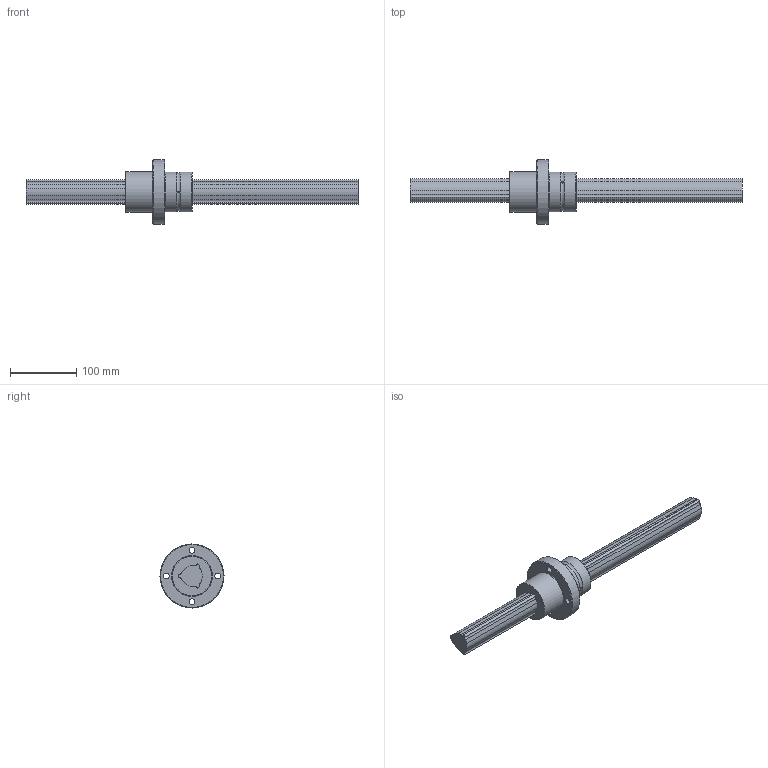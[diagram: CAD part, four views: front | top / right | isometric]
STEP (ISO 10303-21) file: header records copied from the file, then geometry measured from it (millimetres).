
FILE_DESCRIPTION(/* description */ ('STEP AP214'),/* implementation_level */ '2;1');
FILE_NAME(/* name */ 'LBR40+500L(1001500)',/* time_stamp */ '2024-09-04T13:08:09+02:00',/* author */ ('License CC BY-ND 4.0'),/* organization */ ('CADENAS'),/* preprocessor_version */ 'ST-DEVELOPER v19.3',/* originating_system */ 'PARTsolutions',/* authorisation */ ' ');
FILE_SCHEMA (('AUTOMOTIVE_DESIGN {1 0 10303 214 3 1 1}'));
Length unit declared in the file: millimetre
Products named in the file (3): LBR40+500L(1001500); LBR401500 Spline Shaft; LBR40 Nut
Assembly tree (2 placements, depth 2):
  LBR40+500L(1001500)
    LBR401500 Spline Shaft
    LBR40 Nut
Bounding box: 500 x 96.4 x 96.4 mm (x, y, z)
Volume: 700989.9 mm3; surface area: 106443.5 mm2
Topology: 2 solids, 2 shells, 63 faces, 158 edges, 104 vertices
Faces by surface type: cylinder 35, plane 21, torus 5, cone 2
Full cylindrical faces by diameter (mm): 3 x3, 9 x4, 60 x2, 60.4 x1, 96.4 x1
Entity records: 1906 total; most frequent: DIRECTION 338, CARTESIAN_POINT 332, ORIENTED_EDGE 272, AXIS2_PLACEMENT_3D 139, EDGE_CURVE 136, VERTEX_POINT 100, EDGE_LOOP 96, FACE_BOUND 96
